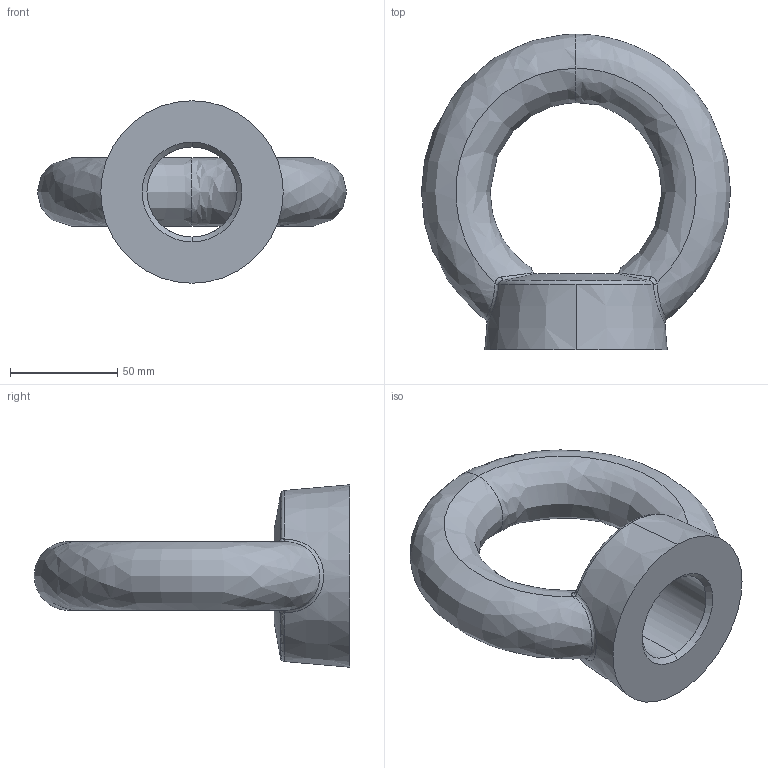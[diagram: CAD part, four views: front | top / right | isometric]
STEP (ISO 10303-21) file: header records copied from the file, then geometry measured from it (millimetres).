
FILE_DESCRIPTION (( 'STEP AP203' ), '1' );
FILE_NAME ('P4041.420-ZP.step', '2023-04-16T08:01:52', ( '' ), ( '' ), 'SwSTEP 2.0', 'SolidWorks 2019', '' );
FILE_SCHEMA (( 'CONFIG_CONTROL_DESIGN' ));
Length unit declared in the file: millimetre
Products named in the file (1): P4041.420-ZP
Bounding box: 144 x 147 x 85 mm (x, y, z)
Volume: 356352.4 mm3; surface area: 47445.4 mm2
Topology: 1 solids, 1 shells, 27 faces, 69 edges, 41 vertices
Faces by surface type: bspline 14, cone 7, torus 3, cylinder 2, plane 1
Entity records: 3466 total; most frequent: CARTESIAN_POINT 2840, ORIENTED_EDGE 138, DIRECTION 87, EDGE_CURVE 69, VERTEX_POINT 41, AXIS2_PLACEMENT_3D 40, B_SPLINE_CURVE_WITH_KNOTS 34, EDGE_LOOP 28
